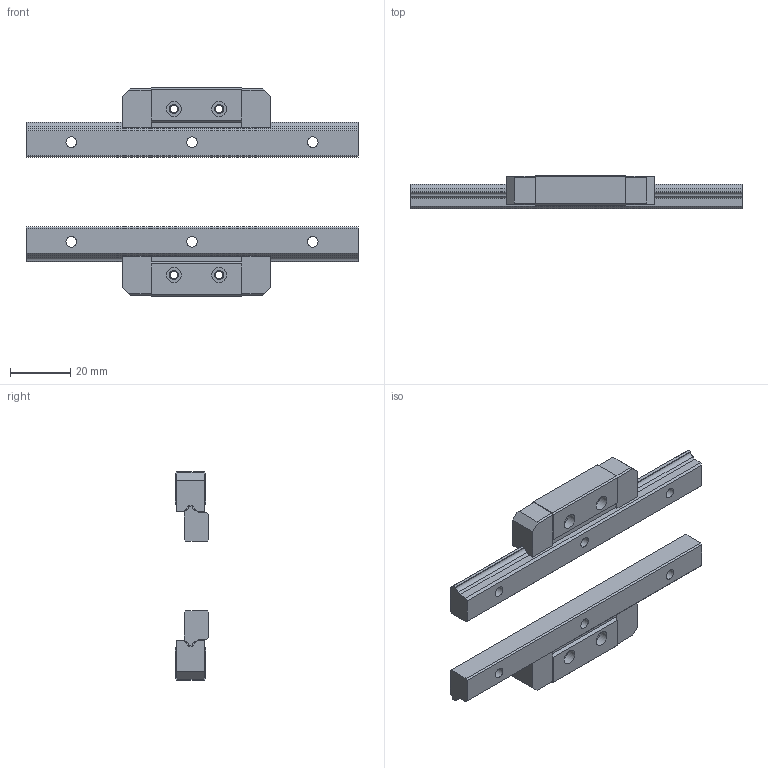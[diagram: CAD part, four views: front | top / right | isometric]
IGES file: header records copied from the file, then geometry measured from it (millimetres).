
Start section: Data from Parasolid IGES Translator 26.0.171, Copyright(c) 2006 Siemens PLM Software. All Rights Reserved.
Global section: file name: HR1123-110L_G15_33_30-5_0_0_0.igs; native system: By Siemens PLM Incorporated; preprocessor: XPlus GENERIC/IGES 26.0.171; author: Noname; organization: Noname; date: 20240521.104717; units: millimetre
Bounding box: 110 x 11 x 69 mm (x, y, z)
Surface area: 14356.1 mm2 (no closed solid volume)
Topology: 0 solids, 0 shells, 176 faces, 912 edges, 866 vertices
Faces by surface type: extrusion 136, revolution 40
